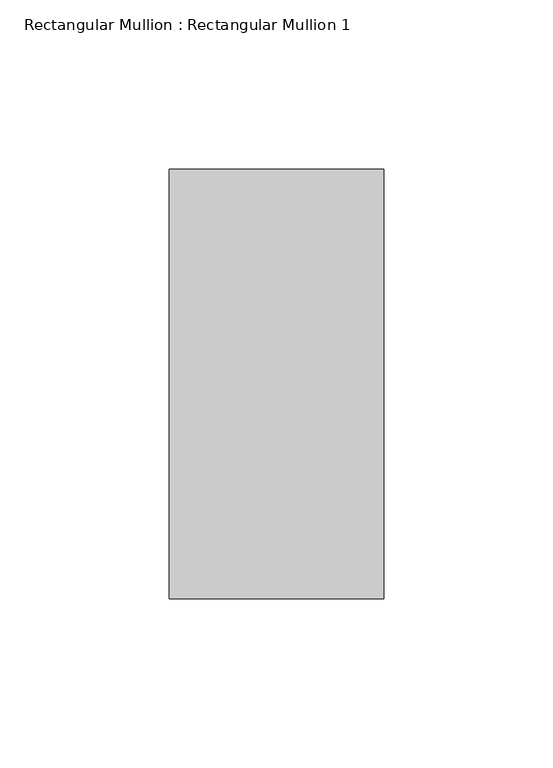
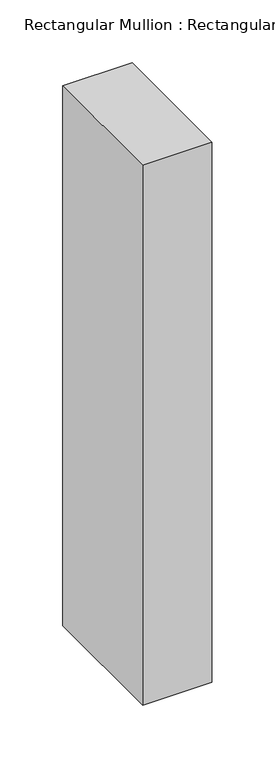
"""IFC4 building model written with IfcOpenShell, lengths in millimetres: member geometry, Rectangular Mullion : Rectangular Mullion 1."""

from ifc_helpers import new_model, si_unit, frame, origin, place, context, project, spatial, polyline, outline, extrude, source, transform, mapped, element, save


def rectangular_mullion_rectangular_mullion_1_78d03da0(model_context):
    return source(origin(), model_context, "Body", "SweptSolid", [
        extrude(outline(polyline([(0.0, 63.5), (0.0, -63.5), (-63.5, -63.5), (-63.5, 63.5), (0.0, 63.5)])), frame((0.0, 0.0, -524.0668164), z_axis=(0.0, 0.0, 1.0), x_axis=(1.0, 0.0, 0.0)), (0.0, 0.0, 1.0), 524.0668164),
    ])


if __name__ == "__main__":
    model = new_model("IFC4")
    model_context = context("Model", 3, world=origin())
    ifc_project = project(units=[si_unit("LENGTHUNIT", "METRE", prefix="MILLI")], contexts=[model_context])
    site = spatial("IfcSite", under=ifc_project)
    building = spatial("IfcBuilding", under=site)
    placement = place(None, origin())
    rectangular_mullion_rectangular_mullion_1_shape = rectangular_mullion_rectangular_mullion_1_78d03da0(model_context)
    element("IfcMember", 1, ObjectType="Rectangular Mullion : Rectangular Mullion 1", at=placement, inside=building, context=model_context, shape_type="MappedRepresentation", body=[
        mapped(rectangular_mullion_rectangular_mullion_1_shape, transform((0.0, 0.0, 0.0), x_axis=(1.0, 0.0, 0.0), y_axis=(0.0, 1.0, 0.0), z_axis=(0.0, 0.0, 1.0))),
    ])
    save(model, "model.ifc")
